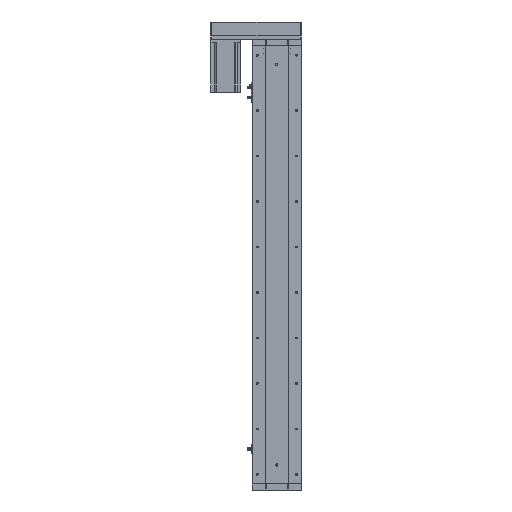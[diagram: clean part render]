
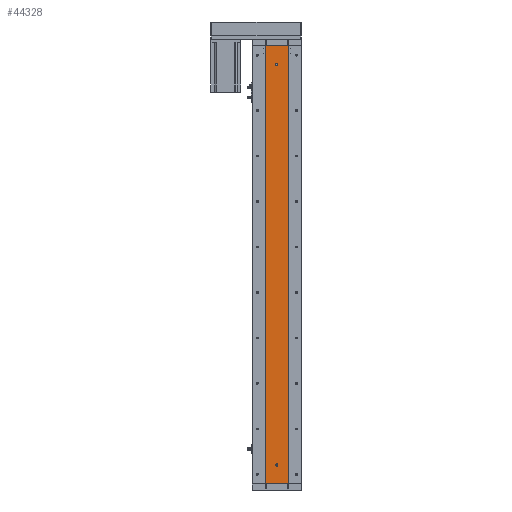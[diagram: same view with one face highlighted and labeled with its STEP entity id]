
A CAD part, left-side view. The second image highlights one B-rep face of the part: STEP entity #44328.
In plain terms, the highlighted planar face has unit normal (-1, 0, 0).
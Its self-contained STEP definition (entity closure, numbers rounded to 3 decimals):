
#358 = CARTESIAN_POINT ( 'NONE',  ( -24.994, 29.785, 1156. ) ) ;
#644 = CARTESIAN_POINT ( 'NONE',  ( -24.994, 0., 1109. ) ) ;
#990 = ORIENTED_EDGE ( 'NONE', *, *, #15082, .F. ) ;
#2914 = DIRECTION ( 'NONE',  ( 0., 0., -1. ) ) ;
#3308 = CARTESIAN_POINT ( 'NONE',  ( -24.994, 29.785, 1156. ) ) ;
#4056 = DIRECTION ( 'NONE',  ( -1., 0., 0. ) ) ;
#5133 = CARTESIAN_POINT ( 'NONE',  ( -24.994, 29.785, 1156. ) ) ;
#6072 = EDGE_CURVE ( 'NONE', #11425, #44934, #46407, .T. ) ;
#6359 = DIRECTION ( 'NONE',  ( -1., 0., 0. ) ) ;
#6562 = EDGE_CURVE ( 'NONE', #44934, #11425, #41470, .T. ) ;
#6994 = PLANE ( 'NONE',  #22320 ) ;
#7157 = DIRECTION ( 'NONE',  ( 0., 0., -1. ) ) ;
#7903 = CIRCLE ( 'NONE', #41505, 3. ) ;
#9779 = CARTESIAN_POINT ( 'NONE',  ( -24.994, -29.785, 0. ) ) ;
#9924 = ORIENTED_EDGE ( 'NONE', *, *, #19394, .F. ) ;
#11425 = VERTEX_POINT ( 'NONE', #25914 ) ;
#11554 = ORIENTED_EDGE ( 'NONE', *, *, #28809, .F. ) ;
#11567 = AXIS2_PLACEMENT_3D ( 'NONE', #36849, #13874, #40653 ) ;
#11922 = CARTESIAN_POINT ( 'NONE',  ( -24.994, 0., 50. ) ) ;
#13874 = DIRECTION ( 'NONE',  ( -1., 0., 0. ) ) ;
#14265 = CARTESIAN_POINT ( 'NONE',  ( -24.994, 29.785, 0. ) ) ;
#14325 = EDGE_CURVE ( 'NONE', #34479, #18821, #37154, .T. ) ;
#14615 = EDGE_LOOP ( 'NONE', ( #990, #11554 ) ) ;
#14640 = AXIS2_PLACEMENT_3D ( 'NONE', #26947, #4056, #30809 ) ;
#15082 = EDGE_CURVE ( 'NONE', #42296, #42931, #30860, .T. ) ;
#15243 = CARTESIAN_POINT ( 'NONE',  ( -24.994, 0., 53. ) ) ;
#15246 = LINE ( 'NONE', #48714, #44599 ) ;
#15800 = DIRECTION ( 'NONE',  ( 0., 0., 1. ) ) ;
#17468 = VERTEX_POINT ( 'NONE', #9779 ) ;
#18472 = CARTESIAN_POINT ( 'NONE',  ( -24.994, 29.785, 0. ) ) ;
#18821 = VERTEX_POINT ( 'NONE', #33708 ) ;
#19394 = EDGE_CURVE ( 'NONE', #18821, #17468, #15246, .T. ) ;
#19633 = CARTESIAN_POINT ( 'NONE',  ( -24.994, 0., 1103. ) ) ;
#20833 = EDGE_LOOP ( 'NONE', ( #48889, #35223 ) ) ;
#22320 = AXIS2_PLACEMENT_3D ( 'NONE', #3308, #30039, #7157 ) ;
#23163 = ORIENTED_EDGE ( 'NONE', *, *, #14325, .F. ) ;
#25914 = CARTESIAN_POINT ( 'NONE',  ( -24.994, 0., 47. ) ) ;
#26243 = EDGE_CURVE ( 'NONE', #34479, #30092, #48411, .T. ) ;
#26947 = CARTESIAN_POINT ( 'NONE',  ( -24.994, 0., 50. ) ) ;
#27575 = EDGE_LOOP ( 'NONE', ( #29901, #9924, #23163, #38001 ) ) ;
#27801 = FACE_OUTER_BOUND ( 'NONE', #27575, .T. ) ;
#28061 = VECTOR ( 'NONE', #47243, 1000. ) ;
#28809 = EDGE_CURVE ( 'NONE', #42931, #42296, #7903, .T. ) ;
#29249 = CARTESIAN_POINT ( 'NONE',  ( -24.994, 0., 1106. ) ) ;
#29901 = ORIENTED_EDGE ( 'NONE', *, *, #38309, .T. ) ;
#30039 = DIRECTION ( 'NONE',  ( 1., 0., 0. ) ) ;
#30092 = VERTEX_POINT ( 'NONE', #18472 ) ;
#30809 = DIRECTION ( 'NONE',  ( 0., 0., 1. ) ) ;
#30860 = CIRCLE ( 'NONE', #11567, 3. ) ;
#31874 = DIRECTION ( 'NONE',  ( 0., -1., 0. ) ) ;
#33099 = DIRECTION ( 'NONE',  ( 0., 0., 1. ) ) ;
#33708 = CARTESIAN_POINT ( 'NONE',  ( -24.994, -29.785, 1156. ) ) ;
#34479 = VERTEX_POINT ( 'NONE', #358 ) ;
#35223 = ORIENTED_EDGE ( 'NONE', *, *, #6072, .F. ) ;
#35713 = LINE ( 'NONE', #14265, #45883 ) ;
#36849 = CARTESIAN_POINT ( 'NONE',  ( -24.994, 0., 1106. ) ) ;
#37154 = LINE ( 'NONE', #5133, #44911 ) ;
#37226 = DIRECTION ( 'NONE',  ( 0., -1., 0. ) ) ;
#37966 = FACE_BOUND ( 'NONE', #14615, .T. ) ;
#38001 = ORIENTED_EDGE ( 'NONE', *, *, #26243, .T. ) ;
#38309 = EDGE_CURVE ( 'NONE', #30092, #17468, #35713, .T. ) ;
#38718 = DIRECTION ( 'NONE',  ( -1., 0., 0. ) ) ;
#39496 = CARTESIAN_POINT ( 'NONE',  ( -24.994, 29.785, 1156. ) ) ;
#40653 = DIRECTION ( 'NONE',  ( 0., 0., 1. ) ) ;
#41470 = CIRCLE ( 'NONE', #14640, 3. ) ;
#41505 = AXIS2_PLACEMENT_3D ( 'NONE', #29249, #6359, #33099 ) ;
#42296 = VERTEX_POINT ( 'NONE', #644 ) ;
#42931 = VERTEX_POINT ( 'NONE', #19633 ) ;
#44328 = ADVANCED_FACE ( 'NONE', ( #37966, #48176, #27801 ), #6994, .F. ) ;
#44599 = VECTOR ( 'NONE', #2914, 1000. ) ;
#44911 = VECTOR ( 'NONE', #31874, 1000. ) ;
#44934 = VERTEX_POINT ( 'NONE', #15243 ) ;
#45883 = VECTOR ( 'NONE', #37226, 1000. ) ;
#46407 = CIRCLE ( 'NONE', #46725, 3. ) ;
#46725 = AXIS2_PLACEMENT_3D ( 'NONE', #11922, #38718, #15800 ) ;
#47243 = DIRECTION ( 'NONE',  ( 0., 0., -1. ) ) ;
#48176 = FACE_BOUND ( 'NONE', #20833, .T. ) ;
#48411 = LINE ( 'NONE', #39496, #28061 ) ;
#48714 = CARTESIAN_POINT ( 'NONE',  ( -24.994, -29.785, 1156. ) ) ;
#48889 = ORIENTED_EDGE ( 'NONE', *, *, #6562, .F. ) ;
